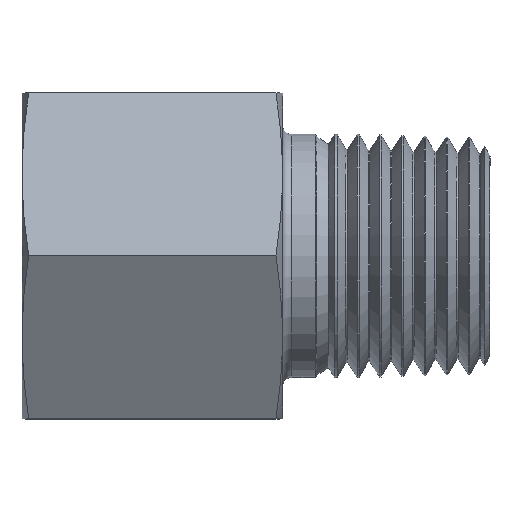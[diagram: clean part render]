
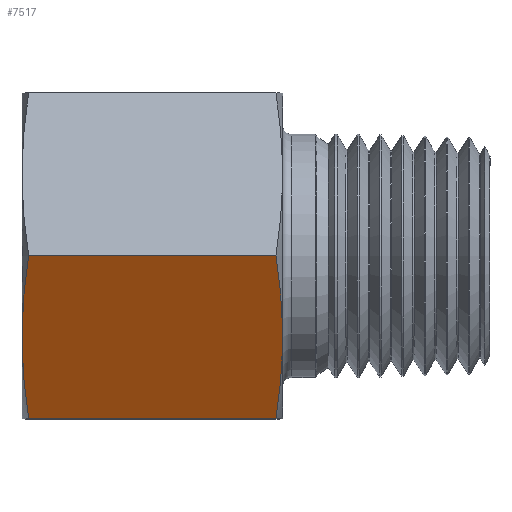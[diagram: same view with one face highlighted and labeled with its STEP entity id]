
A CAD part, top view. The second image highlights one B-rep face of the part: STEP entity #7517.
In plain terms, the highlighted planar face has unit normal (0, -0.5, 0.866).
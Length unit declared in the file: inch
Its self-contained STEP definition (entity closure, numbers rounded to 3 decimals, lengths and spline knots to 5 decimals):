
#469=LINE('',#11116,#827);
#470=LINE('',#11140,#828);
#827=VECTOR('',#8885,39.37008);
#828=VECTOR('',#8892,39.37008);
#889=B_SPLINE_CURVE_WITH_KNOTS('',3,(#10098,#10099,#10100,#10101),
 .UNSPECIFIED.,.F.,.F.,(4,4),(0.,1.),.UNSPECIFIED.);
#891=B_SPLINE_CURVE_WITH_KNOTS('',3,(#10108,#10109,#10110,#10111),
 .UNSPECIFIED.,.F.,.F.,(4,4),(0.,1.),.UNSPECIFIED.);
#892=B_SPLINE_CURVE_WITH_KNOTS('',3,(#10113,#10114,#10115,#10116),
 .UNSPECIFIED.,.F.,.F.,(4,4),(0.,1.),.UNSPECIFIED.);
#915=B_SPLINE_CURVE_WITH_KNOTS('',3,(#10228,#10229,#10230,#10231),
 .UNSPECIFIED.,.F.,.F.,(4,4),(0.,1.),.UNSPECIFIED.);
#1043=B_SPLINE_CURVE_WITH_KNOTS('',3,(#11120,#11121,#11122,#11123),
 .UNSPECIFIED.,.F.,.F.,(4,4),(0.,1.),.UNSPECIFIED.);
#1044=B_SPLINE_CURVE_WITH_KNOTS('',3,(#11125,#11126,#11127,#11128),
 .UNSPECIFIED.,.F.,.F.,(4,4),(0.,1.),.UNSPECIFIED.);
#1045=B_SPLINE_CURVE_WITH_KNOTS('',3,(#11130,#11131,#11132,#11133),
 .UNSPECIFIED.,.F.,.F.,(4,4),(0.,1.),.UNSPECIFIED.);
#1046=B_SPLINE_CURVE_WITH_KNOTS('',3,(#11135,#11136,#11137,#11138),
 .UNSPECIFIED.,.F.,.F.,(4,4),(0.,1.),.UNSPECIFIED.);
#1271=PLANE('',#7865);
#2264=ORIENTED_EDGE('',*,*,#3311,.F.);
#2265=ORIENTED_EDGE('',*,*,#3313,.T.);
#2266=ORIENTED_EDGE('',*,*,#3314,.T.);
#2267=ORIENTED_EDGE('',*,*,#3315,.T.);
#2268=ORIENTED_EDGE('',*,*,#3316,.T.);
#2269=ORIENTED_EDGE('',*,*,#3317,.T.);
#2270=ORIENTED_EDGE('',*,*,#3047,.F.);
#2271=ORIENTED_EDGE('',*,*,#3003,.F.);
#2272=ORIENTED_EDGE('',*,*,#3002,.F.);
#2273=ORIENTED_EDGE('',*,*,#3000,.F.);
#3000=EDGE_CURVE('',#3690,#3526,#889,.F.);
#3002=EDGE_CURVE('',#3526,#3683,#891,.F.);
#3003=EDGE_CURVE('',#3683,#3553,#892,.F.);
#3047=EDGE_CURVE('',#3553,#3712,#915,.F.);
#3311=EDGE_CURVE('',#3846,#3690,#469,.T.);
#3313=EDGE_CURVE('',#3846,#3847,#1043,.T.);
#3314=EDGE_CURVE('',#3847,#3848,#1044,.T.);
#3315=EDGE_CURVE('',#3848,#3849,#1045,.T.);
#3316=EDGE_CURVE('',#3849,#3850,#1046,.T.);
#3317=EDGE_CURVE('',#3850,#3712,#470,.T.);
#3526=VERTEX_POINT('',#9568);
#3553=VERTEX_POINT('',#9635);
#3683=VERTEX_POINT('',#10019);
#3690=VERTEX_POINT('',#10102);
#3712=VERTEX_POINT('',#10227);
#3846=VERTEX_POINT('',#11115);
#3847=VERTEX_POINT('',#11119);
#3848=VERTEX_POINT('',#11129);
#3849=VERTEX_POINT('',#11134);
#3850=VERTEX_POINT('',#11139);
#4304=EDGE_LOOP('',(#2264,#2265,#2266,#2267,#2268,#2269,#2270,#2271,#2272,
#2273));
#4735=FACE_BOUND('',#4304,.T.);
#7517=ADVANCED_FACE('',(#4735),#1271,.F.);
#7865=AXIS2_PLACEMENT_3D('',#11124,#8890,#8891);
#8885=DIRECTION('',(1.,0.,0.));
#8890=DIRECTION('',(0.,0.5,-0.866));
#8891=DIRECTION('',(0.,-0.866,-0.5));
#8892=DIRECTION('',(1.,0.,0.));
#9568=CARTESIAN_POINT('',(0.89966,-0.24848,0.50606));
#9635=CARTESIAN_POINT('',(0.89966,-0.31402,0.46822));
#10019=CARTESIAN_POINT('',(0.9,-0.28125,0.48714));
#10098=CARTESIAN_POINT('',(0.89966,-0.24848,0.50606));
#10099=CARTESIAN_POINT('',(0.89806,-0.1715,0.5505));
#10100=CARTESIAN_POINT('',(0.8904,-0.08868,0.59832));
#10101=CARTESIAN_POINT('',(0.87668,0.,0.64952));
#10102=CARTESIAN_POINT('',(0.87668,0.,0.64952));
#10108=CARTESIAN_POINT('',(0.9,-0.28125,0.48714));
#10109=CARTESIAN_POINT('',(0.9,-0.27034,0.49344));
#10110=CARTESIAN_POINT('',(0.89989,-0.25941,0.49975));
#10111=CARTESIAN_POINT('',(0.89966,-0.24848,0.50606));
#10113=CARTESIAN_POINT('',(0.89966,-0.31402,0.46822));
#10114=CARTESIAN_POINT('',(0.89989,-0.30309,0.47453));
#10115=CARTESIAN_POINT('',(0.9,-0.29216,0.48084));
#10116=CARTESIAN_POINT('',(0.9,-0.28125,0.48714));
#10227=CARTESIAN_POINT('',(0.87668,-0.5625,0.32476));
#10228=CARTESIAN_POINT('',(0.87668,-0.5625,0.32476));
#10229=CARTESIAN_POINT('',(0.8904,-0.47382,0.37596));
#10230=CARTESIAN_POINT('',(0.89806,-0.391,0.42378));
#10231=CARTESIAN_POINT('',(0.89966,-0.31402,0.46822));
#11115=CARTESIAN_POINT('',(0.02332,0.,0.64952));
#11116=CARTESIAN_POINT('',(-0.435,0.,0.64952));
#11119=CARTESIAN_POINT('',(0.00034,-0.24848,0.50606));
#11120=CARTESIAN_POINT('',(0.02332,0.,0.64952));
#11121=CARTESIAN_POINT('',(0.0096,-0.08868,0.59832));
#11122=CARTESIAN_POINT('',(0.00194,-0.1715,0.5505));
#11123=CARTESIAN_POINT('',(0.00034,-0.24848,0.50606));
#11124=CARTESIAN_POINT('',(-0.435,-0.5625,0.32476));
#11125=CARTESIAN_POINT('',(0.00034,-0.24848,0.50606));
#11126=CARTESIAN_POINT('',(0.00011,-0.25941,0.49975));
#11127=CARTESIAN_POINT('',(0.,-0.27034,0.49344));
#11128=CARTESIAN_POINT('',(0.,-0.28125,0.48714));
#11129=CARTESIAN_POINT('',(0.,-0.28125,0.48714));
#11130=CARTESIAN_POINT('',(0.,-0.28125,0.48714));
#11131=CARTESIAN_POINT('',(0.,-0.29216,0.48084));
#11132=CARTESIAN_POINT('',(0.00011,-0.30309,0.47453));
#11133=CARTESIAN_POINT('',(0.00034,-0.31402,0.46822));
#11134=CARTESIAN_POINT('',(0.00034,-0.31402,0.46822));
#11135=CARTESIAN_POINT('',(0.00034,-0.31402,0.46822));
#11136=CARTESIAN_POINT('',(0.00194,-0.391,0.42378));
#11137=CARTESIAN_POINT('',(0.0096,-0.47382,0.37596));
#11138=CARTESIAN_POINT('',(0.02332,-0.5625,0.32476));
#11139=CARTESIAN_POINT('',(0.02332,-0.5625,0.32476));
#11140=CARTESIAN_POINT('',(-0.435,-0.5625,0.32476));
